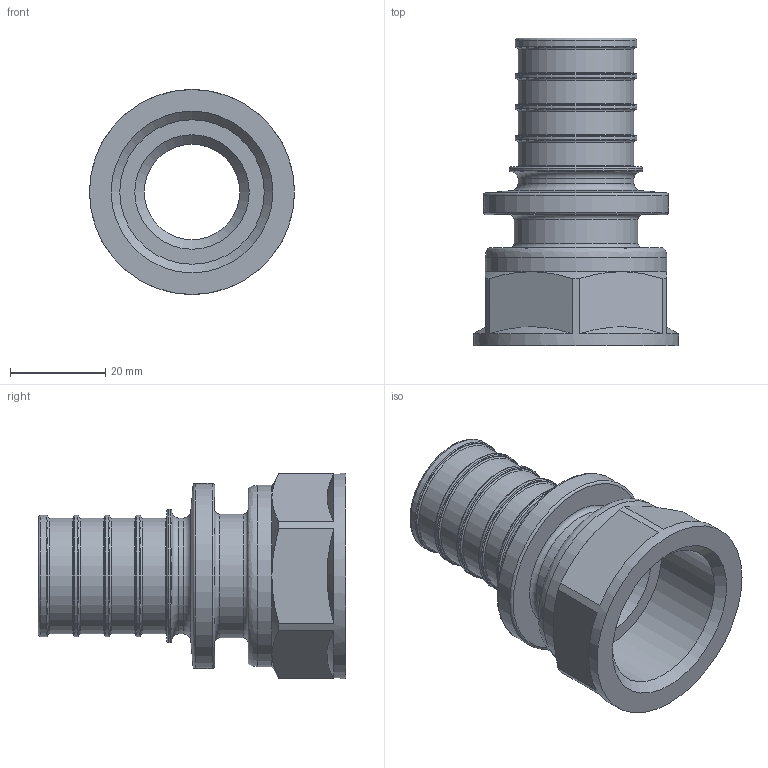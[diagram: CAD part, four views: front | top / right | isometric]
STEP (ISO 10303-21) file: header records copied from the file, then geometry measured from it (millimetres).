
FILE_DESCRIPTION(('STEP AP203'), '1');
FILE_NAME('ﾂﾐ.753124.015 - VTm.402.G.003206 ﾔ頸. 浯葢. G 1', '2024-01-23T13:19:10', ('Boss'), (''), 'C3D Converter', 'C3D Toolkit', '');
FILE_SCHEMA(('CONFIG_CONTROL_DESIGN'));
Length unit declared in the file: millimetre
Products named in the file (1): ВР.753124.015
Bounding box: 43 x 64.5 x 43 mm (x, y, z)
Volume: 22602.9 mm3; surface area: 14296.1 mm2
Topology: 1 solids, 1 shells, 76 faces, 151 edges, 88 vertices
Faces by surface type: torus 24, plane 19, cylinder 16, cone 16, bspline 1
Full cylindrical faces by diameter (mm): 20 x1, 24.3 x5, 25.5 x4, 26 x1, 27.9 x1, 30.292 x1, 38 x1, 38.8 x1, 43 x1
Entity records: 2402 total; most frequent: CARTESIAN_POINT 955, DIRECTION 316, ORIENTED_EDGE 212, AXIS2_PLACEMENT_3D 152, EDGE_LOOP 134, EDGE_CURVE 106, FACE_OUTER_BOUND 88, VERTEX_POINT 88
